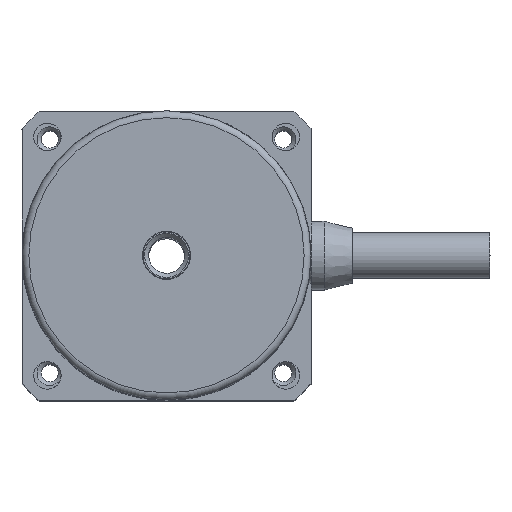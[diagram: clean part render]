
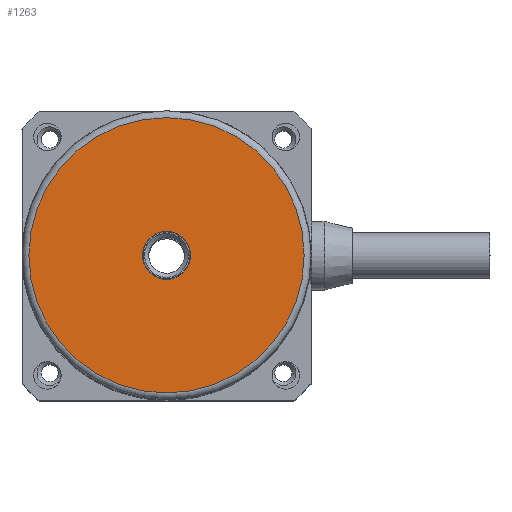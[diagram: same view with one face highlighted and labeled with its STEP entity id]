
A CAD part, top view. The second image highlights one B-rep face of the part: STEP entity #1263.
In plain terms, the highlighted planar face has unit normal (0, 0, 1).
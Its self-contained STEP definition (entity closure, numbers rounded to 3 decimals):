
#1263=ADVANCED_FACE('',(#1704,#1705),#1706,.F.);
#1704=FACE_OUTER_BOUND('',#2607,.T.);
#1705=FACE_BOUND('',#2608,.T.);
#1706=PLANE('',#2609);
#2607=EDGE_LOOP('',(#3644));
#2608=EDGE_LOOP('',(#3645));
#2609=AXIS2_PLACEMENT_3D('',#3646,#3647,#3648);
#3644=ORIENTED_EDGE('',*,*,#6025,.T.);
#3645=ORIENTED_EDGE('',*,*,#6026,.T.);
#3646=CARTESIAN_POINT('',(6.125,0.,39.45));
#3647=DIRECTION('',(0.,0.,-1.0));
#3648=DIRECTION('',(1.0,0.,0.0));
#6025=EDGE_CURVE('',#6832,#6832,#6833,.F.);
#6026=EDGE_CURVE('',#6834,#6834,#6835,.T.);
#6832=VERTEX_POINT('',#8300);
#6833=CIRCLE('',#8301,10.0);
#6834=VERTEX_POINT('',#8302);
#6835=CIRCLE('',#8303,1.75);
#8300=CARTESIAN_POINT('',(10.0,0.,39.45));
#8301=AXIS2_PLACEMENT_3D('',#10249,#10250,#10251);
#8302=CARTESIAN_POINT('',(1.75,0.,39.45));
#8303=AXIS2_PLACEMENT_3D('',#10252,#10253,#10254);
#10249=CARTESIAN_POINT('',(0.,0.,39.45));
#10250=DIRECTION('',(0.,0.,-1.0));
#10251=DIRECTION('',(1.0,0.,0.0));
#10252=CARTESIAN_POINT('',(0.,0.,39.45));
#10253=DIRECTION('',(0.,0.,-1.0));
#10254=DIRECTION('',(1.0,0.,0.0));
